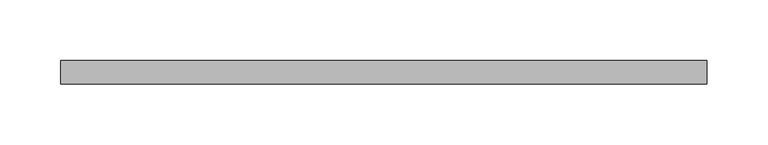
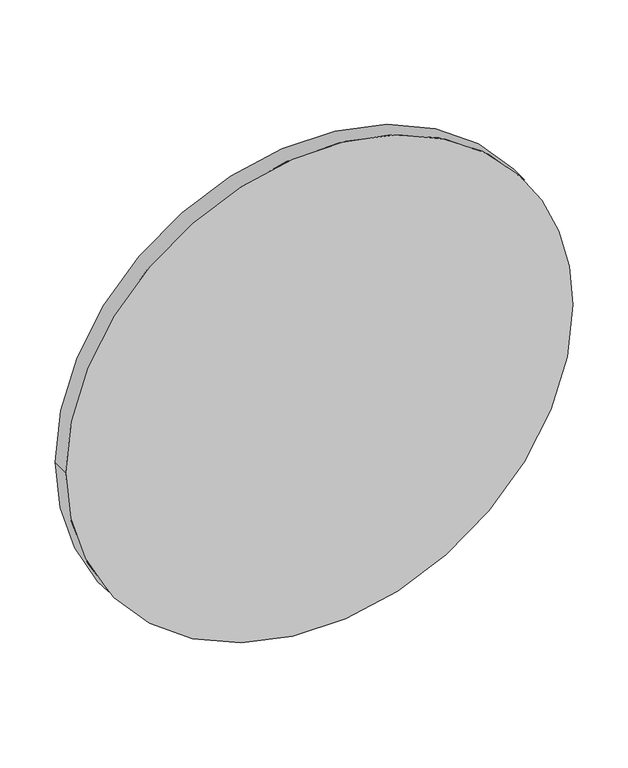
"""IFC4 building model written with IfcOpenShell, lengths in millimetres: proxy geometry, CAMBRIDGE^TABLE 1_60 ROUND-BASE BOTTOM."""

import ifcopenshell
import ifcopenshell.guid

model = None  # the IFC model being written
_history = None  # IfcOwnerHistory: only IFC2X3 demands one
_inside = {}  # id of a spatial element -> (the spatial element, [elements in it])
_under = {}  # id of a project, library or spatial element -> (it, [spatial elements below it])
_declared = {}  # id of a project -> (the project, [libraries it declares])
_typed = {}  # id of a type object -> (the type object, [elements of that type])
_made_of = {}  # id of a material, layer set ... -> (it, [elements and type objects made of it])


def new_model(schema):
    """Start an empty IFC model of exactly this schema.

    Asked for "IFC4X3", IfcOpenShell would pick the latest addendum, in which some entities
    have other attributes; the version numbers below select the first issue.
    IFC2X3 requires an IfcOwnerHistory on every rooted entity: one is made here for all.
    """
    global model, _history
    if schema == "IFC4X3":
        model = ifcopenshell.file(schema_version=(4, 3, 0, 0))
    else:
        model = ifcopenshell.file(schema=schema)
    _inside.clear()
    _under.clear()
    _declared.clear()
    _typed.clear()
    _made_of.clear()
    _history = None
    if model.schema == "IFC2X3":
        org = make("IfcOrganization", Name="unknown")
        user = make(
            "IfcPersonAndOrganization",
            ThePerson=make("IfcPerson", FamilyName="unknown"),
            TheOrganization=org,
        )
        app = make(
            "IfcApplication",
            ApplicationDeveloper=org,
            Version="unknown",
            ApplicationFullName="unknown",
            ApplicationIdentifier="unknown",
        )
        _history = make(
            "IfcOwnerHistory",
            OwningUser=user,
            OwningApplication=app,
            ChangeAction="ADDED",
            CreationDate=0,
        )
    return model


def make(cls, **values):
    """One entity of the class cls with the attributes given. An attribute that is None is left unset."""
    return model.create_entity(
        cls, **{name: value for name, value in values.items() if value is not None}
    )


def rooted(cls, **values):
    """An entity with a GlobalId (a new one), such as an element, a storey or a relation."""
    return make(cls, GlobalId=ifcopenshell.guid.new(), OwnerHistory=_history, **values)


def si_unit(unit_type, name, prefix=None):
    """IfcSIUnit, for example si_unit("LENGTHUNIT", "METRE", prefix="MILLI")."""
    return make("IfcSIUnit", UnitType=unit_type, Prefix=prefix, Name=name)


def assignment(units):
    """IfcUnitAssignment: the units of a project."""
    return None if units is None else make("IfcUnitAssignment", Units=units)


def point(xyz):
    """IfcCartesianPoint."""
    return None if xyz is None else make("IfcCartesianPoint", Coordinates=xyz)


def direction(xyz):
    """IfcDirection."""
    return None if xyz is None else make("IfcDirection", DirectionRatios=xyz)


def frame(location, z_axis=None, x_axis=None):
    """IfcAxis2Placement3D, a coordinate frame: its origin and axes. An axis left out is left unset."""
    return make(
        "IfcAxis2Placement3D",
        Location=point(location),
        Axis=direction(z_axis),
        RefDirection=direction(x_axis),
    )


def origin():
    """The frame at (0, 0, 0) with its axes left unset."""
    return frame((0.0, 0.0, 0.0))


def place(relative_to, where):
    """IfcLocalPlacement: puts the frame where relative to a parent placement (None: the world)."""
    return make(
        "IfcLocalPlacement", PlacementRelTo=relative_to, RelativePlacement=where
    )


def context(
    kind, dimensions, precision=None, world=None, true_north=None, identifier=None
):
    """IfcGeometricRepresentationContext, for example the 3D "Model" context."""
    return make(
        "IfcGeometricRepresentationContext",
        ContextIdentifier=identifier,
        ContextType=kind,
        CoordinateSpaceDimension=dimensions,
        Precision=precision,
        WorldCoordinateSystem=world,
        TrueNorth=true_north,
    )


def project(units=None, contexts=None):
    """IfcProject with its units and contexts."""
    return rooted(
        "IfcProject",
        Name="project",
        RepresentationContexts=contexts,
        UnitsInContext=assignment(units),
    )


def spatial(cls, under=None, at=None, **own):
    """A site, building, storey or space (cls), placed at a placement, below another one or the project."""
    s = rooted(cls, ObjectPlacement=at, **own)
    if under is not None:
        _under.setdefault(under.id(), (under, []))[1].append(s)
    return s


def circle_curve(where, radius):
    """IfcCircle in the frame where."""
    return make("IfcCircle", Position=where, Radius=radius)


def shape(context_of_items, identifier, shape_type, items):
    """IfcShapeRepresentation: the items that make up one representation, for example the "Body"."""
    return make(
        "IfcShapeRepresentation",
        ContextOfItems=context_of_items,
        RepresentationIdentifier=identifier,
        RepresentationType=shape_type,
        Items=items,
    )


def source(mapping_origin, context_of_items, identifier, shape_type, items):
    """IfcRepresentationMap: a shape defined once, which mapped items show again and again."""
    return make(
        "IfcRepresentationMap",
        MappingOrigin=mapping_origin,
        MappedRepresentation=shape(context_of_items, identifier, shape_type, items),
    )


def transform(
    local_origin,
    x_axis=None,
    y_axis=None,
    z_axis=None,
    scale=None,
    scale2=None,
    scale3=None,
    uniform=True,
):
    """IfcCartesianTransformationOperator3D, or its non-uniform kind. x_axis, y_axis, z_axis: its Axis1, 2, 3."""
    if uniform:
        return make(
            "IfcCartesianTransformationOperator3D",
            Axis1=direction(x_axis),
            Axis2=direction(y_axis),
            LocalOrigin=point(local_origin),
            Scale=scale,
            Axis3=direction(z_axis),
        )
    return make(
        "IfcCartesianTransformationOperator3DnonUniform",
        Axis1=direction(x_axis),
        Axis2=direction(y_axis),
        LocalOrigin=point(local_origin),
        Scale=scale,
        Axis3=direction(z_axis),
        Scale2=scale2,
        Scale3=scale3,
    )


def mapped(mapping_source, mapping_target):
    """IfcMappedItem: shows the shape of a source again, moved by a transform."""
    return make(
        "IfcMappedItem", MappingSource=mapping_source, MappingTarget=mapping_target
    )


def made_of(thing, what):
    """Note that an element or type object is made of a material, layer set ...; save() writes the relation."""
    if what is not None:
        _made_of.setdefault(what.id(), (what, []))[1].append(thing)
    return thing


def element(
    cls,
    number,
    at=None,
    inside=None,
    cuts=None,
    type_object=None,
    material=None,
    context=None,
    identifier="Body",
    shape_type=None,
    held_by="IfcProductDefinitionShape",
    body=None,
    shapes=None,
    **own,
):
    """One element of the class cls, such as IfcWall. Its Tag is "e" and its number.

    at: its placement. inside: the storey or other place that contains it. cuts: it is an
    opening in that element (IfcRelVoidsElement). A single representation is given by context,
    identifier, shape_type and body (its items); several are given by shapes. held_by: the class
    of the entity that holds the representations. save() writes the other relations.
    """
    e = rooted(cls, Tag="e%d" % number, ObjectPlacement=at, **own)
    if body is not None:
        shapes = [shape(context, identifier, shape_type, body)]
    if shapes is not None:
        e.Representation = make(held_by, Representations=shapes)
    if inside is not None:
        _inside.setdefault(inside.id(), (inside, []))[1].append(e)
    if cuts is not None:
        rooted(
            "IfcRelVoidsElement", RelatingBuildingElement=cuts, RelatedOpeningElement=e
        )
    if type_object is not None:
        _typed.setdefault(type_object.id(), (type_object, []))[1].append(e)
    return made_of(e, material)


def aggregate(whole, parts):
    """IfcRelAggregates: a whole, such as a stair, and the parts it consists of."""
    return rooted("IfcRelAggregates", RelatingObject=whole, RelatedObjects=parts)


def save(model, path):
    """Write the relations noted so far, then the file.

    IfcRelAggregates (storeys below a building ...), IfcRelContainedInSpatialStructure (elements
    in a storey), IfcRelDefinesByType, IfcRelAssociatesMaterial and IfcRelDeclares: one each for
    every whole, place, type object, material and project.
    """
    for whole, parts in _under.values():
        aggregate(whole, parts)
    for where, things in _inside.values():
        rooted(
            "IfcRelContainedInSpatialStructure",
            RelatedElements=things,
            RelatingStructure=where,
        )
    for kind, things in _typed.values():
        rooted("IfcRelDefinesByType", RelatedObjects=things, RelatingType=kind)
    for what, things in _made_of.values():
        rooted("IfcRelAssociatesMaterial", RelatedObjects=things, RelatingMaterial=what)
    for by, libraries in _declared.values():
        rooted("IfcRelDeclares", RelatingContext=by, RelatedDefinitions=libraries)
    model.write(path)


def plane_surface(at):
    """IfcPlane: the flat surface through the origin of the frame at, square to its z axis."""
    return make("IfcPlane", Position=at)


def cylinder_surface(at, radius):
    """IfcCylindricalSurface: all points at the distance radius from the z axis of the frame at."""
    return make("IfcCylindricalSurface", Position=at, Radius=radius)


def advanced_brep(points, edges, surfaces, faces):
    """IfcAdvancedBrep: a solid bounded by faces that lie on surfaces and meet in shared edges.

    An edge is (start, end): straight between two places in points (the first is 0);
    or (start, end, curve); or (start, end, curve, False) where it runs against its curve.
    A face is (place in surfaces, loops), or (place, loops, False) where it looks against
    its surface's normal. A loop lists edges by number (the first is 1), with a minus sign
    where the edge is run from its end to its start. The first loop is the outer one.
    """
    corners = [point(p) for p in points]
    vertices = [make("IfcVertexPoint", VertexGeometry=c) for c in corners]
    made = []
    for start, end, *more in edges:
        made.append(
            make(
                "IfcEdgeCurve",
                EdgeStart=vertices[start],
                EdgeEnd=vertices[end],
                EdgeGeometry=more[0] if more else make("IfcPolyline", Points=[corners[start], corners[end]]),
                SameSense=more[1] if len(more) > 1 else True,
            )
        )
    hull = []
    for where, loops, *sense in faces:
        bounds = []
        for j, loop in enumerate(loops):
            ring = [make("IfcOrientedEdge", EdgeElement=made[abs(k) - 1], Orientation=k > 0) for k in loop]
            bounds.append(
                make(
                    "IfcFaceOuterBound" if j == 0 else "IfcFaceBound",
                    Bound=make("IfcEdgeLoop", EdgeList=ring),
                    Orientation=True,
                )
            )
        hull.append(make("IfcAdvancedFace", Bounds=bounds, FaceSurface=surfaces[where], SameSense=sense[0] if sense else True))
    return make("IfcAdvancedBrep", Outer=make("IfcClosedShell", CfsFaces=hull))


def generic_models_3dfdcb52(model_context):
    return source(origin(), model_context, "Body", "AdvancedBrep", [
        advanced_brep(
        [(265.1125, -615.95, 0.0), (265.1125, -596.9, 0.0), (-265.1125, -596.9, 0.0), (-265.1125, -615.95, 0.0), (208.5642819, -615.95, 163.6630013)],
        [
            (0, 1),
            (1, 2, circle_curve(frame((0.0, -596.9, 0.0), z_axis=(0.0, -1.0, 0.0), x_axis=(1.0, 0.0, 0.0)), 265.1125)),
            (2, 3),
            (3, 4, circle_curve(frame((0.0, -615.95, 0.0), z_axis=(0.0, 1.0, 0.0), x_axis=(1.0, 0.0, 0.0)), 265.1125)),
            (4, 0, circle_curve(frame((0.0, -615.95, 0.0), z_axis=(0.0, 1.0, 0.0), x_axis=(1.0, 0.0, 0.0)), 265.1125)),
            (0, 3, circle_curve(frame((0.0, -615.95, 0.0), z_axis=(0.0, 1.0, 0.0), x_axis=(1.0, 0.0, 0.0)), 265.1125)),
            (2, 1, circle_curve(frame((0.0, -596.9, 0.0), z_axis=(0.0, -1.0, 0.0), x_axis=(1.0, 0.0, 0.0)), 265.1125)),
        ],
        [
            cylinder_surface(frame((0.0, -615.95, 0.0), z_axis=(0.0, 1.0, 0.0), x_axis=(1.0, 0.0, 0.0)), 265.1125),
            plane_surface(frame((0.0, -615.95, 0.0), z_axis=(0.0, -1.0, 0.0), x_axis=(0.0, 0.0, -1.0))),
            plane_surface(frame((0.0, -596.9, 0.0), z_axis=(0.0, 1.0, 0.0), x_axis=(0.0, 0.0, -1.0))),
        ],
        [
            (0, [[1, 2, 3, 4, 5]]),
            (0, [[-1, 6, -3, 7]]),
            (1, [[-4, -6, -5]]),
            (2, [[-7, -2]]),
        ],
    ),
    ])


if __name__ == "__main__":
    model = new_model("IFC4")
    model_context = context("Model", 3, world=origin())
    ifc_project = project(units=[si_unit("LENGTHUNIT", "METRE", prefix="MILLI")], contexts=[model_context])
    site = spatial("IfcSite", under=ifc_project)
    building = spatial("IfcBuilding", under=site)
    placement = place(None, origin())
    generic_models_shape = generic_models_3dfdcb52(model_context)
    element("IfcBuildingElementProxy", 1, Name="CAMBRIDGE^TABLE 1_60 ROUND-BASE BOTTOM", ObjectType="CAMBRIDGE^TABLE 1_60 ROUND-BASE BOTTOM", at=placement, inside=building, context=model_context, shape_type="MappedRepresentation", body=[
        mapped(generic_models_shape, transform((0.0, 0.0, 0.0), x_axis=(1.0, 0.0, 0.0), y_axis=(0.0, 1.0, 0.0), z_axis=(0.0, 0.0, 1.0))),
    ])
    save(model, "model.ifc")
